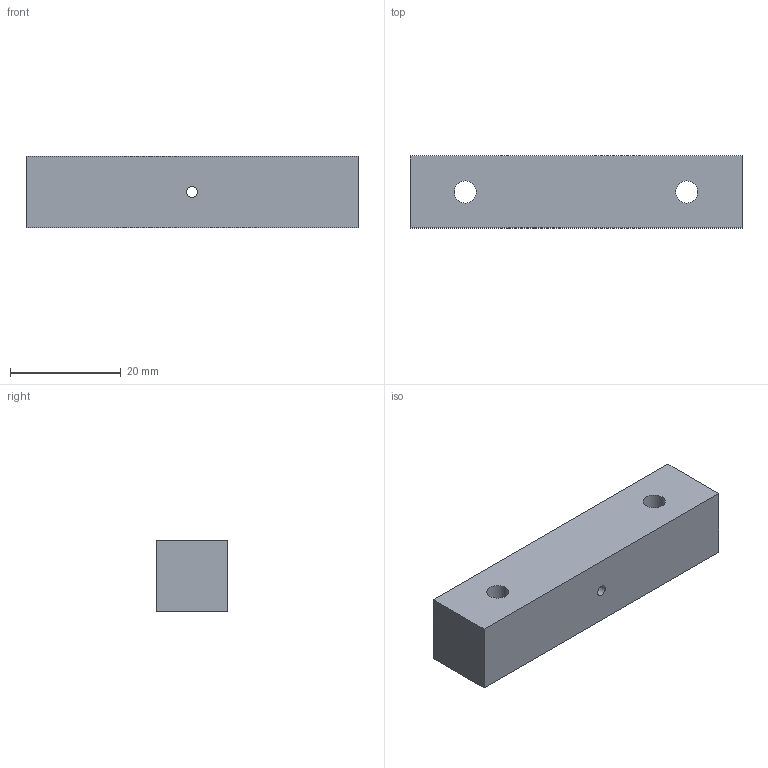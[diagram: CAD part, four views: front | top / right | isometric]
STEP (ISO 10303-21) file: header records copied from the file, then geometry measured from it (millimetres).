
FILE_DESCRIPTION(('FreeCAD Model'),'2;1');
FILE_NAME('/home/bluelambda/Documents/Arcade/cad/step/bottom_trapdoor_cleat.step', '2016-05-08T10:59:50',('Author'),(''), 'Open CASCADE STEP processor 6.9','FreeCAD','Unknown');
FILE_SCHEMA(('AUTOMOTIVE_DESIGN { 1 0 10303 214 1 1 1 1 }'));
Length unit declared in the file: millimetre
Products named in the file (1): bottom_trapdoor_cleat
Bounding box: 60 x 13 x 13 mm (x, y, z)
Volume: 9772.4 mm3; surface area: 3809.9 mm2
Topology: 1 solids, 1 shells, 9 faces, 21 edges, 14 vertices
Faces by surface type: plane 6, cylinder 3
Full cylindrical faces by diameter (mm): 2 x1, 4 x2
Entity records: 582 total; most frequent: CARTESIAN_POINT 117, DIRECTION 84, LINE 51, VECTOR 51, ORIENTED_EDGE 42, PCURVE 42, DEFINITIONAL_REPRESENTATION 42, EDGE_CURVE 21
